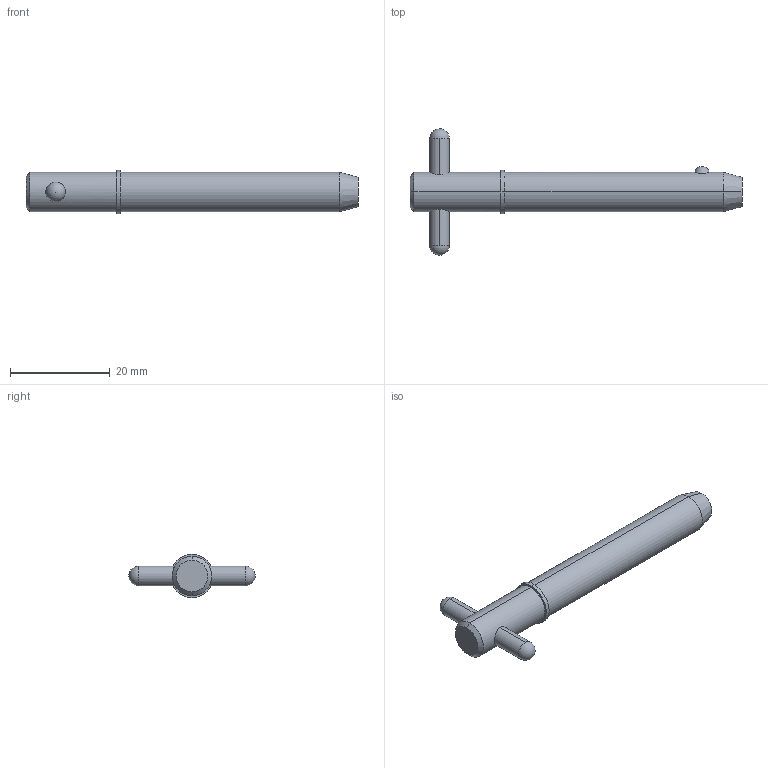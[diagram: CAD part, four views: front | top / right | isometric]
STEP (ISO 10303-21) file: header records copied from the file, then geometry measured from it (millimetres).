
FILE_DESCRIPTION (( 'STEP AP203' ), '1' );
FILE_NAME ('33018.W3115.step', '2024-11-19T17:09:22', ( '' ), ( '' ), 'SwSTEP 2.0', 'SolidWorks 2019', '' );
FILE_SCHEMA (( 'CONFIG_CONTROL_DESIGN' ));
Length unit declared in the file: millimetre
Products named in the file (3): 33018.W3115; Part2_33018.W3115; Part1_33018.W3115
Assembly tree (2 placements, depth 2):
  33018.W3115
    Part1_33018.W3115
    Part2_33018.W3115
Bounding box: 66.68 x 25.4 x 8.73 mm (x, y, z)
Volume: 3467.8 mm3; surface area: 2130.4 mm2
Topology: 2 solids, 2 shells, 22 faces, 47 edges, 30 vertices
Faces by surface type: cylinder 10, sphere 4, cone 4, plane 4
Entity records: 1013 total; most frequent: CARTESIAN_POINT 256, DIRECTION 110, ORIENTED_EDGE 82, AXIS2_PLACEMENT_3D 48, EDGE_CURVE 41, EDGE_LOOP 27, VERTEX_POINT 26, PERSON_AND_ORGANIZATION 26
